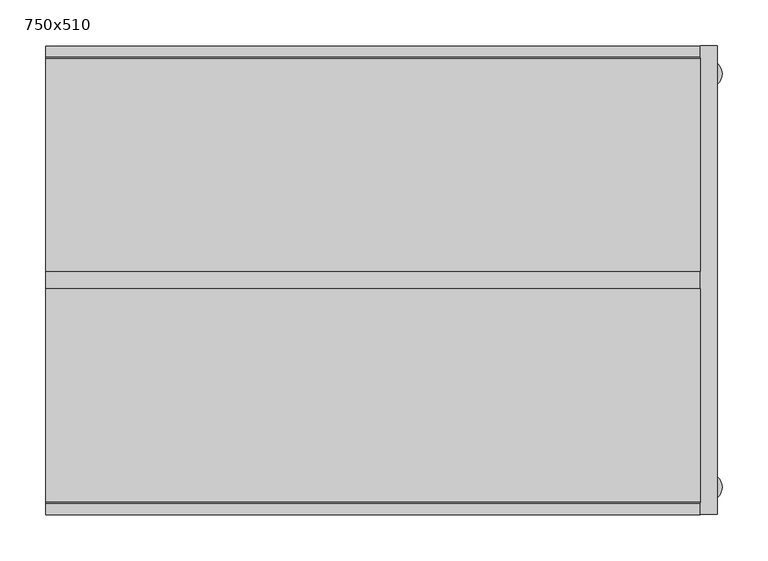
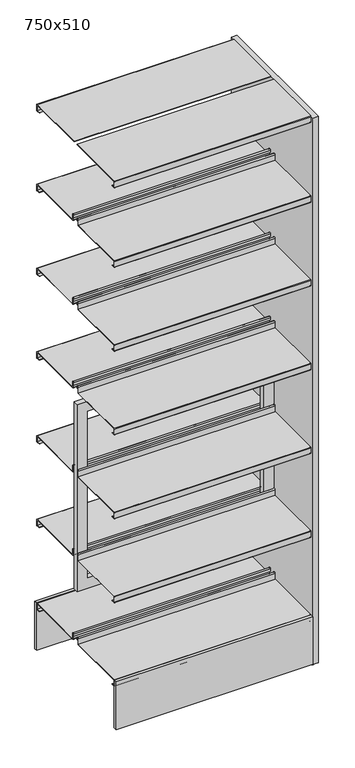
"""IFC4 building model written with IfcOpenShell, lengths in millimetres: furniture geometry, BK Library - Rondus DF - 2100 : 750x510."""

import ifcopenshell
import ifcopenshell.guid

model = None  # the IFC model being written
_history = None  # IfcOwnerHistory: only IFC2X3 demands one
_inside = {}  # id of a spatial element -> (the spatial element, [elements in it])
_under = {}  # id of a project, library or spatial element -> (it, [spatial elements below it])
_declared = {}  # id of a project -> (the project, [libraries it declares])
_typed = {}  # id of a type object -> (the type object, [elements of that type])
_made_of = {}  # id of a material, layer set ... -> (it, [elements and type objects made of it])


def new_model(schema):
    """Start an empty IFC model of exactly this schema.

    Asked for "IFC4X3", IfcOpenShell would pick the latest addendum, in which some entities
    have other attributes; the version numbers below select the first issue.
    IFC2X3 requires an IfcOwnerHistory on every rooted entity: one is made here for all.
    """
    global model, _history
    if schema == "IFC4X3":
        model = ifcopenshell.file(schema_version=(4, 3, 0, 0))
    else:
        model = ifcopenshell.file(schema=schema)
    _inside.clear()
    _under.clear()
    _declared.clear()
    _typed.clear()
    _made_of.clear()
    _history = None
    if model.schema == "IFC2X3":
        org = make("IfcOrganization", Name="unknown")
        user = make(
            "IfcPersonAndOrganization",
            ThePerson=make("IfcPerson", FamilyName="unknown"),
            TheOrganization=org,
        )
        app = make(
            "IfcApplication",
            ApplicationDeveloper=org,
            Version="unknown",
            ApplicationFullName="unknown",
            ApplicationIdentifier="unknown",
        )
        _history = make(
            "IfcOwnerHistory",
            OwningUser=user,
            OwningApplication=app,
            ChangeAction="ADDED",
            CreationDate=0,
        )
    return model


def make(cls, **values):
    """One entity of the class cls with the attributes given. An attribute that is None is left unset."""
    return model.create_entity(
        cls, **{name: value for name, value in values.items() if value is not None}
    )


def rooted(cls, **values):
    """An entity with a GlobalId (a new one), such as an element, a storey or a relation."""
    return make(cls, GlobalId=ifcopenshell.guid.new(), OwnerHistory=_history, **values)


def si_unit(unit_type, name, prefix=None):
    """IfcSIUnit, for example si_unit("LENGTHUNIT", "METRE", prefix="MILLI")."""
    return make("IfcSIUnit", UnitType=unit_type, Prefix=prefix, Name=name)


def assignment(units):
    """IfcUnitAssignment: the units of a project."""
    return None if units is None else make("IfcUnitAssignment", Units=units)


def point(xyz):
    """IfcCartesianPoint."""
    return None if xyz is None else make("IfcCartesianPoint", Coordinates=xyz)


def direction(xyz):
    """IfcDirection."""
    return None if xyz is None else make("IfcDirection", DirectionRatios=xyz)


def frame(location, z_axis=None, x_axis=None):
    """IfcAxis2Placement3D, a coordinate frame: its origin and axes. An axis left out is left unset."""
    return make(
        "IfcAxis2Placement3D",
        Location=point(location),
        Axis=direction(z_axis),
        RefDirection=direction(x_axis),
    )


def frame_2d(location, x_axis=None):
    """IfcAxis2Placement2D, a coordinate frame in the plane: its origin and x axis."""
    return make(
        "IfcAxis2Placement2D", Location=point(location), RefDirection=direction(x_axis)
    )


def origin():
    """The frame at (0, 0, 0) with its axes left unset."""
    return frame((0.0, 0.0, 0.0))


def origin_with_axes():
    """The frame at (0, 0, 0) with the z axis (0, 0, 1) and the x axis (1, 0, 0) written out."""
    return frame((0.0, 0.0, 0.0), z_axis=(0.0, 0.0, 1.0), x_axis=(1.0, 0.0, 0.0))


def place(relative_to, where):
    """IfcLocalPlacement: puts the frame where relative to a parent placement (None: the world)."""
    return make(
        "IfcLocalPlacement", PlacementRelTo=relative_to, RelativePlacement=where
    )


def context(
    kind, dimensions, precision=None, world=None, true_north=None, identifier=None
):
    """IfcGeometricRepresentationContext, for example the 3D "Model" context."""
    return make(
        "IfcGeometricRepresentationContext",
        ContextIdentifier=identifier,
        ContextType=kind,
        CoordinateSpaceDimension=dimensions,
        Precision=precision,
        WorldCoordinateSystem=world,
        TrueNorth=true_north,
    )


def project(units=None, contexts=None):
    """IfcProject with its units and contexts."""
    return rooted(
        "IfcProject",
        Name="project",
        RepresentationContexts=contexts,
        UnitsInContext=assignment(units),
    )


def spatial(cls, under=None, at=None, **own):
    """A site, building, storey or space (cls), placed at a placement, below another one or the project."""
    s = rooted(cls, ObjectPlacement=at, **own)
    if under is not None:
        _under.setdefault(under.id(), (under, []))[1].append(s)
    return s


def polyline(points):
    """IfcPolyline through the points."""
    return make("IfcPolyline", Points=[point(p) for p in points])


def circle_curve(where, radius):
    """IfcCircle in the frame where."""
    return make("IfcCircle", Position=where, Radius=radius)


def trimmed(basis, trim1, trim2, sense, master):
    """IfcTrimmedCurve: the piece of a basis curve between two trims."""
    return make(
        "IfcTrimmedCurve",
        BasisCurve=basis,
        Trim1=trim1,
        Trim2=trim2,
        SenseAgreement=sense,
        MasterRepresentation=master,
    )


def segment(curve, same_sense, transition):
    """IfcCompositeCurveSegment."""
    return make(
        "IfcCompositeCurveSegment",
        Transition=transition,
        SameSense=same_sense,
        ParentCurve=curve,
    )


def composite_curve(segments, self_intersect=None):
    """IfcCompositeCurve: segments joined end to end."""
    return make("IfcCompositeCurve", Segments=segments, SelfIntersect=self_intersect)


def outline(outer, holes=None, kind="AREA"):
    """IfcArbitraryClosedProfileDef: a profile drawn as a closed curve; with holes, ...WithVoids."""
    if holes is None:
        return make("IfcArbitraryClosedProfileDef", ProfileType=kind, OuterCurve=outer)
    return make(
        "IfcArbitraryProfileDefWithVoids",
        ProfileType=kind,
        OuterCurve=outer,
        InnerCurves=holes,
    )


def extrude(swept, where, along, depth):
    """IfcExtrudedAreaSolid: the profile swept, set in the frame where, extruded along a direction by depth."""
    return make(
        "IfcExtrudedAreaSolid",
        SweptArea=swept,
        Position=where,
        ExtrudedDirection=direction(along),
        Depth=depth,
    )


def shape(context_of_items, identifier, shape_type, items):
    """IfcShapeRepresentation: the items that make up one representation, for example the "Body"."""
    return make(
        "IfcShapeRepresentation",
        ContextOfItems=context_of_items,
        RepresentationIdentifier=identifier,
        RepresentationType=shape_type,
        Items=items,
    )


def source(mapping_origin, context_of_items, identifier, shape_type, items):
    """IfcRepresentationMap: a shape defined once, which mapped items show again and again."""
    return make(
        "IfcRepresentationMap",
        MappingOrigin=mapping_origin,
        MappedRepresentation=shape(context_of_items, identifier, shape_type, items),
    )


def transform(
    local_origin,
    x_axis=None,
    y_axis=None,
    z_axis=None,
    scale=None,
    scale2=None,
    scale3=None,
    uniform=True,
):
    """IfcCartesianTransformationOperator3D, or its non-uniform kind. x_axis, y_axis, z_axis: its Axis1, 2, 3."""
    if uniform:
        return make(
            "IfcCartesianTransformationOperator3D",
            Axis1=direction(x_axis),
            Axis2=direction(y_axis),
            LocalOrigin=point(local_origin),
            Scale=scale,
            Axis3=direction(z_axis),
        )
    return make(
        "IfcCartesianTransformationOperator3DnonUniform",
        Axis1=direction(x_axis),
        Axis2=direction(y_axis),
        LocalOrigin=point(local_origin),
        Scale=scale,
        Axis3=direction(z_axis),
        Scale2=scale2,
        Scale3=scale3,
    )


def mapped(mapping_source, mapping_target):
    """IfcMappedItem: shows the shape of a source again, moved by a transform."""
    return make(
        "IfcMappedItem", MappingSource=mapping_source, MappingTarget=mapping_target
    )


def made_of(thing, what):
    """Note that an element or type object is made of a material, layer set ...; save() writes the relation."""
    if what is not None:
        _made_of.setdefault(what.id(), (what, []))[1].append(thing)
    return thing


def element(
    cls,
    number,
    at=None,
    inside=None,
    cuts=None,
    type_object=None,
    material=None,
    context=None,
    identifier="Body",
    shape_type=None,
    held_by="IfcProductDefinitionShape",
    body=None,
    shapes=None,
    **own,
):
    """One element of the class cls, such as IfcWall. Its Tag is "e" and its number.

    at: its placement. inside: the storey or other place that contains it. cuts: it is an
    opening in that element (IfcRelVoidsElement). A single representation is given by context,
    identifier, shape_type and body (its items); several are given by shapes. held_by: the class
    of the entity that holds the representations. save() writes the other relations.
    """
    e = rooted(cls, Tag="e%d" % number, ObjectPlacement=at, **own)
    if body is not None:
        shapes = [shape(context, identifier, shape_type, body)]
    if shapes is not None:
        e.Representation = make(held_by, Representations=shapes)
    if inside is not None:
        _inside.setdefault(inside.id(), (inside, []))[1].append(e)
    if cuts is not None:
        rooted(
            "IfcRelVoidsElement", RelatingBuildingElement=cuts, RelatedOpeningElement=e
        )
    if type_object is not None:
        _typed.setdefault(type_object.id(), (type_object, []))[1].append(e)
    return made_of(e, material)


def aggregate(whole, parts):
    """IfcRelAggregates: a whole, such as a stair, and the parts it consists of."""
    return rooted("IfcRelAggregates", RelatingObject=whole, RelatedObjects=parts)


def save(model, path):
    """Write the relations noted so far, then the file.

    IfcRelAggregates (storeys below a building ...), IfcRelContainedInSpatialStructure (elements
    in a storey), IfcRelDefinesByType, IfcRelAssociatesMaterial and IfcRelDeclares: one each for
    every whole, place, type object, material and project.
    """
    for whole, parts in _under.values():
        aggregate(whole, parts)
    for where, things in _inside.values():
        rooted(
            "IfcRelContainedInSpatialStructure",
            RelatedElements=things,
            RelatingStructure=where,
        )
    for kind, things in _typed.values():
        rooted("IfcRelDefinesByType", RelatedObjects=things, RelatingType=kind)
    for what, things in _made_of.values():
        rooted("IfcRelAssociatesMaterial", RelatedObjects=things, RelatingMaterial=what)
    for by, libraries in _declared.values():
        rooted("IfcRelDeclares", RelatingContext=by, RelatedDefinitions=libraries)
    model.write(path)


def furniture_750x510_f7d4f791(model_context):
    return source(origin(), model_context, "Body", "SweptSolid", [
        extrude(outline(polyline([(356.0, 255.0), (356.0, 242.7476624), (-356.0, 242.7476624), (-356.0, 255.0), (356.0, 255.0)])), frame((0.0, 0.0, 13.6999998), z_axis=(0.0, 0.0, 1.0), x_axis=(1.0, 0.0, 0.0)), (0.0, 0.0, 1.0), 181.4999514),
        extrude(outline(polyline([(356.0, -242.7476624), (356.0, -255.0), (-356.0, -255.0), (-356.0, -242.7476624), (356.0, -242.7476624)])), frame((0.0, 0.0, 13.6999998), z_axis=(0.0, 0.0, 1.0), x_axis=(1.0, 0.0, 0.0)), (0.0, 0.0, 1.0), 181.4999514),
        extrude(outline(polyline([(1106.1999512, -356.0), (391.1999512, -356.0), (391.1999512, 356.0), (1106.1999512, 356.0), (1106.1999512, -356.0)]), holes=[polyline([(1066.1999514, -317.5), (1066.1999514, 317.5), (431.1999514, 317.5), (431.1999514, -317.5), (1066.1999514, -317.5)])]), frame((0.0, -9.5, 0.0), z_axis=(0.0, 1.0, 0.0), x_axis=(0.0, 0.0, 1.0)), (0.0, 0.0, 1.0), 19.0),
        extrude(outline(composite_curve([segment(polyline([(9.5, 2100.0), (241.25, 2100.0)]), True, "CONTINUOUS"), segment(trimmed(circle_curve(frame_2d((241.25, 2098.5)), 1.5), [point((241.25, 2100.0))], [point((242.75, 2098.5))], False, "CARTESIAN"), True, "CONTINUOUS"), segment(polyline([(242.75, 2098.5), (242.75, 2076.5)]), True, "CONTINUOUS"), segment(trimmed(circle_curve(frame_2d((241.25, 2076.5)), 1.5), [point((242.75, 2076.5))], [point((241.25, 2075.0))], False, "CARTESIAN"), True, "CONTINUOUS"), segment(polyline([(241.25, 2075.0), (229.25, 2075.0), (229.25, 2076.5), (241.25, 2076.5), (241.25, 2098.0), (9.5, 2098.0), (9.5, 2100.0)]), True, "CONTINUOUS")], self_intersect=False)), frame((-356.0, 0.0, 0.0), z_axis=(1.0, 0.0, 0.0), x_axis=(0.0, 1.0, 0.0)), (0.0, 0.0, 1.0), 712.0),
        extrude(outline(composite_curve([segment(polyline([(17.75, 1795.1999512), (241.25, 1795.1999512)]), True, "CONTINUOUS"), segment(trimmed(circle_curve(frame_2d((241.25, 1793.6999512)), 1.5), [point((241.25, 1795.1999512))], [point((242.75, 1793.6999512))], False, "CARTESIAN"), True, "CONTINUOUS"), segment(polyline([(242.75, 1793.6999512), (242.75, 1772.1999512)]), True, "CONTINUOUS"), segment(trimmed(circle_curve(frame_2d((241.25, 1772.1999512)), 1.5), [point((242.75, 1772.1999512))], [point((241.25, 1770.6999512))], False, "CARTESIAN"), True, "CONTINUOUS"), segment(polyline([(241.25, 1770.6999512), (229.25, 1770.6999512), (229.25, 1772.1999512), (241.25, 1772.1999512), (241.25, 1793.6999512), (17.7048221, 1793.6999512)]), True, "CONTINUOUS"), segment(trimmed(circle_curve(frame_2d((17.7048221, 1795.1547733)), 1.4548221), [point((17.7048221, 1793.6999512))], [point((16.25, 1795.1547733))], False, "CARTESIAN"), True, "CONTINUOUS"), segment(polyline([(16.25, 1795.1547733), (16.25, 1816.7020126)]), True, "CONTINUOUS"), segment(trimmed(circle_curve(frame_2d((14.25, 1816.7020126)), 2.0), [point((16.25, 1816.7020126))], [point((12.25, 1816.7020126))], True, "CARTESIAN"), True, "CONTINUOUS"), segment(polyline([(12.25, 1816.7020126), (12.25, 1808.1999512), (10.75, 1808.1999512), (10.75, 1816.7196336)]), True, "CONTINUOUS"), segment(trimmed(circle_curve(frame_2d((14.25, 1816.7196336)), 3.5), [point((10.75, 1816.7196336))], [point((17.75, 1816.7196336))], False, "CARTESIAN"), True, "CONTINUOUS"), segment(polyline([(17.75, 1816.7196336), (17.75, 1795.1999512)]), True, "CONTINUOUS")], self_intersect=False)), frame((-356.0, 0.0, 0.0), z_axis=(1.0, 0.0, 0.0), x_axis=(0.0, 1.0, 0.0)), (0.0, 0.0, 1.0), 712.0),
        extrude(outline(composite_curve([segment(polyline([(17.75, 1475.1999512), (241.25, 1475.1999512)]), True, "CONTINUOUS"), segment(trimmed(circle_curve(frame_2d((241.25, 1473.6999512)), 1.5), [point((241.25, 1475.1999512))], [point((242.75, 1473.6999512))], False, "CARTESIAN"), True, "CONTINUOUS"), segment(polyline([(242.75, 1473.6999512), (242.75, 1452.1999512)]), True, "CONTINUOUS"), segment(trimmed(circle_curve(frame_2d((241.25, 1452.1999512)), 1.5), [point((242.75, 1452.1999512))], [point((241.25, 1450.6999512))], False, "CARTESIAN"), True, "CONTINUOUS"), segment(polyline([(241.25, 1450.6999512), (229.25, 1450.6999512), (229.25, 1452.1999512), (241.25, 1452.1999512), (241.25, 1473.6999512), (17.7048221, 1473.6999512)]), True, "CONTINUOUS"), segment(trimmed(circle_curve(frame_2d((17.7048221, 1475.1547733)), 1.4548221), [point((17.7048221, 1473.6999512))], [point((16.25, 1475.1547733))], False, "CARTESIAN"), True, "CONTINUOUS"), segment(polyline([(16.25, 1475.1547733), (16.25, 1496.7020126)]), True, "CONTINUOUS"), segment(trimmed(circle_curve(frame_2d((14.25, 1496.7020126)), 2.0), [point((16.25, 1496.7020126))], [point((12.25, 1496.7020126))], True, "CARTESIAN"), True, "CONTINUOUS"), segment(polyline([(12.25, 1496.7020126), (12.25, 1488.1999512), (10.75, 1488.1999512), (10.75, 1496.7196336)]), True, "CONTINUOUS"), segment(trimmed(circle_curve(frame_2d((14.25, 1496.7196336)), 3.5), [point((10.75, 1496.7196336))], [point((17.75, 1496.7196336))], False, "CARTESIAN"), True, "CONTINUOUS"), segment(polyline([(17.75, 1496.7196336), (17.75, 1475.1999512)]), True, "CONTINUOUS")], self_intersect=False)), frame((-356.0, 0.0, 0.0), z_axis=(1.0, 0.0, 0.0), x_axis=(0.0, 1.0, 0.0)), (0.0, 0.0, 1.0), 712.0),
        extrude(outline(composite_curve([segment(polyline([(17.75, 1155.1999512), (241.25, 1155.1999512)]), True, "CONTINUOUS"), segment(trimmed(circle_curve(frame_2d((241.25, 1153.6999512)), 1.5), [point((241.25, 1155.1999512))], [point((242.75, 1153.6999512))], False, "CARTESIAN"), True, "CONTINUOUS"), segment(polyline([(242.75, 1153.6999512), (242.75, 1132.1999512)]), True, "CONTINUOUS"), segment(trimmed(circle_curve(frame_2d((241.25, 1132.1999512)), 1.5), [point((242.75, 1132.1999512))], [point((241.25, 1130.6999512))], False, "CARTESIAN"), True, "CONTINUOUS"), segment(polyline([(241.25, 1130.6999512), (229.25, 1130.6999512), (229.25, 1132.1999512), (241.25, 1132.1999512), (241.25, 1153.6999512), (17.7048221, 1153.6999512)]), True, "CONTINUOUS"), segment(trimmed(circle_curve(frame_2d((17.7048221, 1155.1547733)), 1.4548221), [point((17.7048221, 1153.6999512))], [point((16.25, 1155.1547733))], False, "CARTESIAN"), True, "CONTINUOUS"), segment(polyline([(16.25, 1155.1547733), (16.25, 1176.7020126)]), True, "CONTINUOUS"), segment(trimmed(circle_curve(frame_2d((14.25, 1176.7020126)), 2.0), [point((16.25, 1176.7020126))], [point((12.25, 1176.7020126))], True, "CARTESIAN"), True, "CONTINUOUS"), segment(polyline([(12.25, 1176.7020126), (12.25, 1168.1999512), (10.75, 1168.1999512), (10.75, 1176.7196336)]), True, "CONTINUOUS"), segment(trimmed(circle_curve(frame_2d((14.25, 1176.7196336)), 3.5), [point((10.75, 1176.7196336))], [point((17.75, 1176.7196336))], False, "CARTESIAN"), True, "CONTINUOUS"), segment(polyline([(17.75, 1176.7196336), (17.75, 1155.1999512)]), True, "CONTINUOUS")], self_intersect=False)), frame((-356.0, 0.0, 0.0), z_axis=(1.0, 0.0, 0.0), x_axis=(0.0, 1.0, 0.0)), (0.0, 0.0, 1.0), 712.0),
        extrude(outline(composite_curve([segment(polyline([(17.75, 835.1999512), (241.25, 835.1999512)]), True, "CONTINUOUS"), segment(trimmed(circle_curve(frame_2d((241.25, 833.6999512)), 1.5), [point((241.25, 835.1999512))], [point((242.75, 833.6999512))], False, "CARTESIAN"), True, "CONTINUOUS"), segment(polyline([(242.75, 833.6999512), (242.75, 812.1999512)]), True, "CONTINUOUS"), segment(trimmed(circle_curve(frame_2d((241.25, 812.1999512)), 1.5), [point((242.75, 812.1999512))], [point((241.25, 810.6999512))], False, "CARTESIAN"), True, "CONTINUOUS"), segment(polyline([(241.25, 810.6999512), (229.25, 810.6999512), (229.25, 812.1999512), (241.25, 812.1999512), (241.25, 833.6999512), (17.7048221, 833.6999512)]), True, "CONTINUOUS"), segment(trimmed(circle_curve(frame_2d((17.7048221, 835.1547733)), 1.4548221), [point((17.7048221, 833.6999512))], [point((16.25, 835.1547733))], False, "CARTESIAN"), True, "CONTINUOUS"), segment(polyline([(16.25, 835.1547733), (16.25, 856.7020126)]), True, "CONTINUOUS"), segment(trimmed(circle_curve(frame_2d((14.25, 856.7020126)), 2.0), [point((16.25, 856.7020126))], [point((12.25, 856.7020126))], True, "CARTESIAN"), True, "CONTINUOUS"), segment(polyline([(12.25, 856.7020126), (12.25, 848.1999512), (10.75, 848.1999512), (10.75, 856.7196336)]), True, "CONTINUOUS"), segment(trimmed(circle_curve(frame_2d((14.25, 856.7196336)), 3.5), [point((10.75, 856.7196336))], [point((17.75, 856.7196336))], False, "CARTESIAN"), True, "CONTINUOUS"), segment(polyline([(17.75, 856.7196336), (17.75, 835.1999512)]), True, "CONTINUOUS")], self_intersect=False)), frame((-356.0, 0.0, 0.0), z_axis=(1.0, 0.0, 0.0), x_axis=(0.0, 1.0, 0.0)), (0.0, 0.0, 1.0), 712.0),
        extrude(outline(composite_curve([segment(polyline([(17.75, 515.1999512), (241.25, 515.1999512)]), True, "CONTINUOUS"), segment(trimmed(circle_curve(frame_2d((241.25, 513.6999512)), 1.5), [point((241.25, 515.1999512))], [point((242.75, 513.6999512))], False, "CARTESIAN"), True, "CONTINUOUS"), segment(polyline([(242.75, 513.6999512), (242.75, 492.1999512)]), True, "CONTINUOUS"), segment(trimmed(circle_curve(frame_2d((241.25, 492.1999512)), 1.5), [point((242.75, 492.1999512))], [point((241.25, 490.6999512))], False, "CARTESIAN"), True, "CONTINUOUS"), segment(polyline([(241.25, 490.6999512), (229.25, 490.6999512), (229.25, 492.1999512), (241.25, 492.1999512), (241.25, 513.6999512), (17.7048221, 513.6999512)]), True, "CONTINUOUS"), segment(trimmed(circle_curve(frame_2d((17.7048221, 515.1547733)), 1.4548221), [point((17.7048221, 513.6999512))], [point((16.25, 515.1547733))], False, "CARTESIAN"), True, "CONTINUOUS"), segment(polyline([(16.25, 515.1547733), (16.25, 536.7020126)]), True, "CONTINUOUS"), segment(trimmed(circle_curve(frame_2d((14.25, 536.7020126)), 2.0), [point((16.25, 536.7020126))], [point((12.25, 536.7020126))], True, "CARTESIAN"), True, "CONTINUOUS"), segment(polyline([(12.25, 536.7020126), (12.25, 528.1999512), (10.75, 528.1999512), (10.75, 536.7196336)]), True, "CONTINUOUS"), segment(trimmed(circle_curve(frame_2d((14.25, 536.7196336)), 3.5), [point((10.75, 536.7196336))], [point((17.75, 536.7196336))], False, "CARTESIAN"), True, "CONTINUOUS"), segment(polyline([(17.75, 536.7196336), (17.75, 515.1999512)]), True, "CONTINUOUS")], self_intersect=False)), frame((-356.0, 0.0, 0.0), z_axis=(1.0, 0.0, 0.0), x_axis=(0.0, 1.0, 0.0)), (0.0, 0.0, 1.0), 712.0),
        extrude(outline(composite_curve([segment(polyline([(17.75, 195.1999512), (241.25, 195.1999512)]), True, "CONTINUOUS"), segment(trimmed(circle_curve(frame_2d((241.25, 193.6999512)), 1.5), [point((241.25, 195.1999512))], [point((242.75, 193.6999512))], False, "CARTESIAN"), True, "CONTINUOUS"), segment(polyline([(242.75, 193.6999512), (242.75, 172.1999512)]), True, "CONTINUOUS"), segment(trimmed(circle_curve(frame_2d((241.25, 172.1999512)), 1.5), [point((242.75, 172.1999512))], [point((241.25, 170.6999512))], False, "CARTESIAN"), True, "CONTINUOUS"), segment(polyline([(241.25, 170.6999512), (229.25, 170.6999512), (229.25, 172.1999512), (241.25, 172.1999512), (241.25, 193.6999512), (17.7048221, 193.6999512)]), True, "CONTINUOUS"), segment(trimmed(circle_curve(frame_2d((17.7048221, 195.1547733)), 1.4548221), [point((17.7048221, 193.6999512))], [point((16.25, 195.1547733))], False, "CARTESIAN"), True, "CONTINUOUS"), segment(polyline([(16.25, 195.1547733), (16.25, 216.7020126)]), True, "CONTINUOUS"), segment(trimmed(circle_curve(frame_2d((14.25, 216.7020126)), 2.0), [point((16.25, 216.7020126))], [point((12.25, 216.7020126))], True, "CARTESIAN"), True, "CONTINUOUS"), segment(polyline([(12.25, 216.7020126), (12.25, 208.1999512), (10.75, 208.1999512), (10.75, 216.7196336)]), True, "CONTINUOUS"), segment(trimmed(circle_curve(frame_2d((14.25, 216.7196336)), 3.5), [point((10.75, 216.7196336))], [point((17.75, 216.7196336))], False, "CARTESIAN"), True, "CONTINUOUS"), segment(polyline([(17.75, 216.7196336), (17.75, 195.1999512)]), True, "CONTINUOUS")], self_intersect=False)), frame((-356.0, 0.0, 0.0), z_axis=(1.0, 0.0, 0.0), x_axis=(0.0, 1.0, 0.0)), (0.0, 0.0, 1.0), 712.0),
        extrude(outline(composite_curve([segment(polyline([(-9.5, 2100.0), (-9.5, 2098.0), (-241.25, 2098.0), (-241.25, 2076.5), (-229.25, 2076.5), (-229.25, 2075.0), (-241.25, 2075.0)]), True, "CONTINUOUS"), segment(trimmed(circle_curve(frame_2d((-241.25, 2076.5)), 1.5), [point((-241.25, 2075.0))], [point((-242.75, 2076.5))], False, "CARTESIAN"), True, "CONTINUOUS"), segment(polyline([(-242.75, 2076.5), (-242.75, 2098.5)]), True, "CONTINUOUS"), segment(trimmed(circle_curve(frame_2d((-241.25, 2098.5)), 1.5), [point((-242.75, 2098.5))], [point((-241.25, 2100.0))], False, "CARTESIAN"), True, "CONTINUOUS"), segment(polyline([(-241.25, 2100.0), (-9.5, 2100.0)]), True, "CONTINUOUS")], self_intersect=False)), frame((-356.0, 0.0, 0.0), z_axis=(1.0, 0.0, 0.0), x_axis=(0.0, 1.0, 0.0)), (0.0, 0.0, 1.0), 712.0),
        extrude(outline(composite_curve([segment(polyline([(-17.75, 1795.1999512), (-17.75, 1816.7196336)]), True, "CONTINUOUS"), segment(trimmed(circle_curve(frame_2d((-14.25, 1816.7196336)), 3.5), [point((-17.75, 1816.7196336))], [point((-10.75, 1816.7196336))], False, "CARTESIAN"), True, "CONTINUOUS"), segment(polyline([(-10.75, 1816.7196336), (-10.75, 1808.1999512), (-12.25, 1808.1999512), (-12.25, 1816.7020126)]), True, "CONTINUOUS"), segment(trimmed(circle_curve(frame_2d((-14.25, 1816.7020126)), 2.0), [point((-12.25, 1816.7020126))], [point((-16.25, 1816.7020126))], True, "CARTESIAN"), True, "CONTINUOUS"), segment(polyline([(-16.25, 1816.7020126), (-16.25, 1795.1547733)]), True, "CONTINUOUS"), segment(trimmed(circle_curve(frame_2d((-17.7048221, 1795.1547733)), 1.4548221), [point((-16.25, 1795.1547733))], [point((-17.7048221, 1793.6999512))], False, "CARTESIAN"), True, "CONTINUOUS"), segment(polyline([(-17.7048221, 1793.6999512), (-241.25, 1793.6999512), (-241.25, 1772.1999512), (-229.25, 1772.1999512), (-229.25, 1770.6999512), (-241.25, 1770.6999512)]), True, "CONTINUOUS"), segment(trimmed(circle_curve(frame_2d((-241.25, 1772.1999512)), 1.5), [point((-241.25, 1770.6999512))], [point((-242.75, 1772.1999512))], False, "CARTESIAN"), True, "CONTINUOUS"), segment(polyline([(-242.75, 1772.1999512), (-242.75, 1793.6999512)]), True, "CONTINUOUS"), segment(trimmed(circle_curve(frame_2d((-241.25, 1793.6999512)), 1.5), [point((-242.75, 1793.6999512))], [point((-241.25, 1795.1999512))], False, "CARTESIAN"), True, "CONTINUOUS"), segment(polyline([(-241.25, 1795.1999512), (-17.75, 1795.1999512)]), True, "CONTINUOUS")], self_intersect=False)), frame((-356.0, 0.0, 0.0), z_axis=(1.0, 0.0, 0.0), x_axis=(0.0, 1.0, 0.0)), (0.0, 0.0, 1.0), 712.0),
        extrude(outline(composite_curve([segment(polyline([(-17.75, 1475.1999512), (-17.75, 1496.7196336)]), True, "CONTINUOUS"), segment(trimmed(circle_curve(frame_2d((-14.25, 1496.7196336)), 3.5), [point((-17.75, 1496.7196336))], [point((-10.75, 1496.7196336))], False, "CARTESIAN"), True, "CONTINUOUS"), segment(polyline([(-10.75, 1496.7196336), (-10.75, 1488.1999512), (-12.25, 1488.1999512), (-12.25, 1496.7020126)]), True, "CONTINUOUS"), segment(trimmed(circle_curve(frame_2d((-14.25, 1496.7020126)), 2.0), [point((-12.25, 1496.7020126))], [point((-16.25, 1496.7020126))], True, "CARTESIAN"), True, "CONTINUOUS"), segment(polyline([(-16.25, 1496.7020126), (-16.25, 1475.1547733)]), True, "CONTINUOUS"), segment(trimmed(circle_curve(frame_2d((-17.7048221, 1475.1547733)), 1.4548221), [point((-16.25, 1475.1547733))], [point((-17.7048221, 1473.6999512))], False, "CARTESIAN"), True, "CONTINUOUS"), segment(polyline([(-17.7048221, 1473.6999512), (-241.25, 1473.6999512), (-241.25, 1452.1999512), (-229.25, 1452.1999512), (-229.25, 1450.6999512), (-241.25, 1450.6999512)]), True, "CONTINUOUS"), segment(trimmed(circle_curve(frame_2d((-241.25, 1452.1999512)), 1.5), [point((-241.25, 1450.6999512))], [point((-242.75, 1452.1999512))], False, "CARTESIAN"), True, "CONTINUOUS"), segment(polyline([(-242.75, 1452.1999512), (-242.75, 1473.6999512)]), True, "CONTINUOUS"), segment(trimmed(circle_curve(frame_2d((-241.25, 1473.6999512)), 1.5), [point((-242.75, 1473.6999512))], [point((-241.25, 1475.1999512))], False, "CARTESIAN"), True, "CONTINUOUS"), segment(polyline([(-241.25, 1475.1999512), (-17.75, 1475.1999512)]), True, "CONTINUOUS")], self_intersect=False)), frame((-356.0, 0.0, 0.0), z_axis=(1.0, 0.0, 0.0), x_axis=(0.0, 1.0, 0.0)), (0.0, 0.0, 1.0), 712.0),
        extrude(outline(composite_curve([segment(polyline([(-17.75, 1155.1999512), (-17.75, 1176.7196336)]), True, "CONTINUOUS"), segment(trimmed(circle_curve(frame_2d((-14.25, 1176.7196336)), 3.5), [point((-17.75, 1176.7196336))], [point((-10.75, 1176.7196336))], False, "CARTESIAN"), True, "CONTINUOUS"), segment(polyline([(-10.75, 1176.7196336), (-10.75, 1168.1999512), (-12.25, 1168.1999512), (-12.25, 1176.7020126)]), True, "CONTINUOUS"), segment(trimmed(circle_curve(frame_2d((-14.25, 1176.7020126)), 2.0), [point((-12.25, 1176.7020126))], [point((-16.25, 1176.7020126))], True, "CARTESIAN"), True, "CONTINUOUS"), segment(polyline([(-16.25, 1176.7020126), (-16.25, 1155.1547733)]), True, "CONTINUOUS"), segment(trimmed(circle_curve(frame_2d((-17.7048221, 1155.1547733)), 1.4548221), [point((-16.25, 1155.1547733))], [point((-17.7048221, 1153.6999512))], False, "CARTESIAN"), True, "CONTINUOUS"), segment(polyline([(-17.7048221, 1153.6999512), (-241.25, 1153.6999512), (-241.25, 1132.1999512), (-229.25, 1132.1999512), (-229.25, 1130.6999512), (-241.25, 1130.6999512)]), True, "CONTINUOUS"), segment(trimmed(circle_curve(frame_2d((-241.25, 1132.1999512)), 1.5), [point((-241.25, 1130.6999512))], [point((-242.75, 1132.1999512))], False, "CARTESIAN"), True, "CONTINUOUS"), segment(polyline([(-242.75, 1132.1999512), (-242.75, 1153.6999512)]), True, "CONTINUOUS"), segment(trimmed(circle_curve(frame_2d((-241.25, 1153.6999512)), 1.5), [point((-242.75, 1153.6999512))], [point((-241.25, 1155.1999512))], False, "CARTESIAN"), True, "CONTINUOUS"), segment(polyline([(-241.25, 1155.1999512), (-17.75, 1155.1999512)]), True, "CONTINUOUS")], self_intersect=False)), frame((-356.0, 0.0, 0.0), z_axis=(1.0, 0.0, 0.0), x_axis=(0.0, 1.0, 0.0)), (0.0, 0.0, 1.0), 712.0),
        extrude(outline(composite_curve([segment(polyline([(-17.75, 835.1999512), (-17.75, 856.7196336)]), True, "CONTINUOUS"), segment(trimmed(circle_curve(frame_2d((-14.25, 856.7196336)), 3.5), [point((-17.75, 856.7196336))], [point((-10.75, 856.7196336))], False, "CARTESIAN"), True, "CONTINUOUS"), segment(polyline([(-10.75, 856.7196336), (-10.75, 848.1999512), (-12.25, 848.1999512), (-12.25, 856.7020126)]), True, "CONTINUOUS"), segment(trimmed(circle_curve(frame_2d((-14.25, 856.7020126)), 2.0), [point((-12.25, 856.7020126))], [point((-16.25, 856.7020126))], True, "CARTESIAN"), True, "CONTINUOUS"), segment(polyline([(-16.25, 856.7020126), (-16.25, 835.1547733)]), True, "CONTINUOUS"), segment(trimmed(circle_curve(frame_2d((-17.7048221, 835.1547733)), 1.4548221), [point((-16.25, 835.1547733))], [point((-17.7048221, 833.6999512))], False, "CARTESIAN"), True, "CONTINUOUS"), segment(polyline([(-17.7048221, 833.6999512), (-241.25, 833.6999512), (-241.25, 812.1999512), (-229.25, 812.1999512), (-229.25, 810.6999512), (-241.25, 810.6999512)]), True, "CONTINUOUS"), segment(trimmed(circle_curve(frame_2d((-241.25, 812.1999512)), 1.5), [point((-241.25, 810.6999512))], [point((-242.75, 812.1999512))], False, "CARTESIAN"), True, "CONTINUOUS"), segment(polyline([(-242.75, 812.1999512), (-242.75, 833.6999512)]), True, "CONTINUOUS"), segment(trimmed(circle_curve(frame_2d((-241.25, 833.6999512)), 1.5), [point((-242.75, 833.6999512))], [point((-241.25, 835.1999512))], False, "CARTESIAN"), True, "CONTINUOUS"), segment(polyline([(-241.25, 835.1999512), (-17.75, 835.1999512)]), True, "CONTINUOUS")], self_intersect=False)), frame((-356.0, 0.0, 0.0), z_axis=(1.0, 0.0, 0.0), x_axis=(0.0, 1.0, 0.0)), (0.0, 0.0, 1.0), 712.0),
        extrude(outline(composite_curve([segment(polyline([(-17.75, 515.1999512), (-17.75, 536.7196336)]), True, "CONTINUOUS"), segment(trimmed(circle_curve(frame_2d((-14.25, 536.7196336)), 3.5), [point((-17.75, 536.7196336))], [point((-10.75, 536.7196336))], False, "CARTESIAN"), True, "CONTINUOUS"), segment(polyline([(-10.75, 536.7196336), (-10.75, 528.1999512), (-12.25, 528.1999512), (-12.25, 536.7020126)]), True, "CONTINUOUS"), segment(trimmed(circle_curve(frame_2d((-14.25, 536.7020126)), 2.0), [point((-12.25, 536.7020126))], [point((-16.25, 536.7020126))], True, "CARTESIAN"), True, "CONTINUOUS"), segment(polyline([(-16.25, 536.7020126), (-16.25, 515.1547733)]), True, "CONTINUOUS"), segment(trimmed(circle_curve(frame_2d((-17.7048221, 515.1547733)), 1.4548221), [point((-16.25, 515.1547733))], [point((-17.7048221, 513.6999512))], False, "CARTESIAN"), True, "CONTINUOUS"), segment(polyline([(-17.7048221, 513.6999512), (-241.25, 513.6999512), (-241.25, 492.1999512), (-229.25, 492.1999512), (-229.25, 490.6999512), (-241.25, 490.6999512)]), True, "CONTINUOUS"), segment(trimmed(circle_curve(frame_2d((-241.25, 492.1999512)), 1.5), [point((-241.25, 490.6999512))], [point((-242.75, 492.1999512))], False, "CARTESIAN"), True, "CONTINUOUS"), segment(polyline([(-242.75, 492.1999512), (-242.75, 513.6999512)]), True, "CONTINUOUS"), segment(trimmed(circle_curve(frame_2d((-241.25, 513.6999512)), 1.5), [point((-242.75, 513.6999512))], [point((-241.25, 515.1999512))], False, "CARTESIAN"), True, "CONTINUOUS"), segment(polyline([(-241.25, 515.1999512), (-17.75, 515.1999512)]), True, "CONTINUOUS")], self_intersect=False)), frame((-356.0, 0.0, 0.0), z_axis=(1.0, 0.0, 0.0), x_axis=(0.0, 1.0, 0.0)), (0.0, 0.0, 1.0), 712.0),
        extrude(outline(composite_curve([segment(polyline([(-17.75, 195.1999512), (-17.75, 216.7196336)]), True, "CONTINUOUS"), segment(trimmed(circle_curve(frame_2d((-14.25, 216.7196336)), 3.5), [point((-17.75, 216.7196336))], [point((-10.75, 216.7196336))], False, "CARTESIAN"), True, "CONTINUOUS"), segment(polyline([(-10.75, 216.7196336), (-10.75, 208.1999512), (-12.25, 208.1999512), (-12.25, 216.7020126)]), True, "CONTINUOUS"), segment(trimmed(circle_curve(frame_2d((-14.25, 216.7020126)), 2.0), [point((-12.25, 216.7020126))], [point((-16.25, 216.7020126))], True, "CARTESIAN"), True, "CONTINUOUS"), segment(polyline([(-16.25, 216.7020126), (-16.25, 195.1547733)]), True, "CONTINUOUS"), segment(trimmed(circle_curve(frame_2d((-17.7048221, 195.1547733)), 1.4548221), [point((-16.25, 195.1547733))], [point((-17.7048221, 193.6999512))], False, "CARTESIAN"), True, "CONTINUOUS"), segment(polyline([(-17.7048221, 193.6999512), (-241.25, 193.6999512), (-241.25, 172.1999512), (-229.25, 172.1999512), (-229.25, 170.6999512), (-241.25, 170.6999512)]), True, "CONTINUOUS"), segment(trimmed(circle_curve(frame_2d((-241.25, 172.1999512)), 1.5), [point((-241.25, 170.6999512))], [point((-242.75, 172.1999512))], False, "CARTESIAN"), True, "CONTINUOUS"), segment(polyline([(-242.75, 172.1999512), (-242.75, 193.6999512)]), True, "CONTINUOUS"), segment(trimmed(circle_curve(frame_2d((-241.25, 193.6999512)), 1.5), [point((-242.75, 193.6999512))], [point((-241.25, 195.1999512))], False, "CARTESIAN"), True, "CONTINUOUS"), segment(polyline([(-241.25, 195.1999512), (-17.75, 195.1999512)]), True, "CONTINUOUS")], self_intersect=False)), frame((-356.0, 0.0, 0.0), z_axis=(1.0, 0.0, 0.0), x_axis=(0.0, 1.0, 0.0)), (0.0, 0.0, 1.0), 712.0),
        extrude(outline(polyline([(356.0, 255.0), (375.0, 255.0), (375.0, -255.0), (356.0, -255.0), (356.0, 255.0)])), frame((0.0, 0.0, 13.6999998), z_axis=(0.0, 0.0, 1.0), x_axis=(1.0, 0.0, 0.0)), (0.0, 0.0, 1.0), 2086.3000002),
        extrude(outline(composite_curve([segment(trimmed(circle_curve(frame_2d((365.5005427, 224.9952633)), 14.4994573), [point((380.0, 224.9952633))], [point((351.0010853, 224.9952633))], False, "CARTESIAN"), True, "CONTINUOUS"), segment(trimmed(circle_curve(frame_2d((365.5005427, 224.9952633)), 14.4994573), [point((351.0010853, 224.9952633))], [point((380.0, 224.9952633))], False, "CARTESIAN"), True, "CONTINUOUS")], self_intersect=False)), origin_with_axes(), (0.0, 0.0, 1.0), 13.6999998),
        extrude(outline(composite_curve([segment(trimmed(circle_curve(frame_2d((365.5005427, -224.9952633)), 14.4994573), [point((380.0, -224.9952633))], [point((351.0010853, -224.9952633))], False, "CARTESIAN"), True, "CONTINUOUS"), segment(trimmed(circle_curve(frame_2d((365.5005427, -224.9952633)), 14.4994573), [point((351.0010853, -224.9952633))], [point((380.0, -224.9952633))], False, "CARTESIAN"), True, "CONTINUOUS")], self_intersect=False)), origin_with_axes(), (0.0, 0.0, 1.0), 13.6999998),
    ])


if __name__ == "__main__":
    model = new_model("IFC4")
    model_context = context("Model", 3, world=origin())
    ifc_project = project(units=[si_unit("LENGTHUNIT", "METRE", prefix="MILLI")], contexts=[model_context])
    site = spatial("IfcSite", under=ifc_project)
    building = spatial("IfcBuilding", under=site)
    placement = place(None, origin())
    furniture_750x510_shape = furniture_750x510_f7d4f791(model_context)
    element("IfcFurniture", 1, ObjectType="BK Library - Rondus DF - 2100 : 750x510", at=placement, inside=building, context=model_context, shape_type="MappedRepresentation", body=[
        mapped(furniture_750x510_shape, transform((0.0, 0.0, 0.0), x_axis=(1.0, 0.0, 0.0), y_axis=(0.0, 1.0, 0.0), z_axis=(0.0, 0.0, 1.0))),
    ])
    save(model, "model.ifc")
